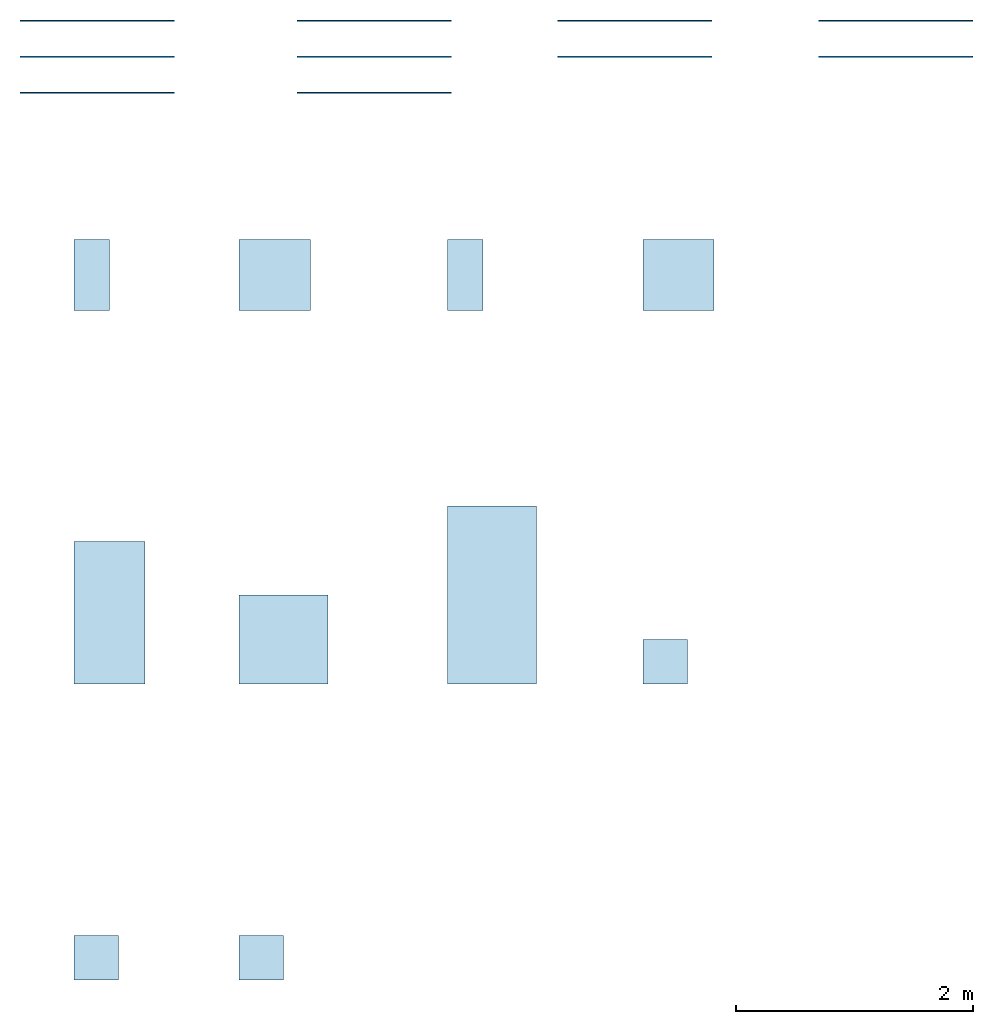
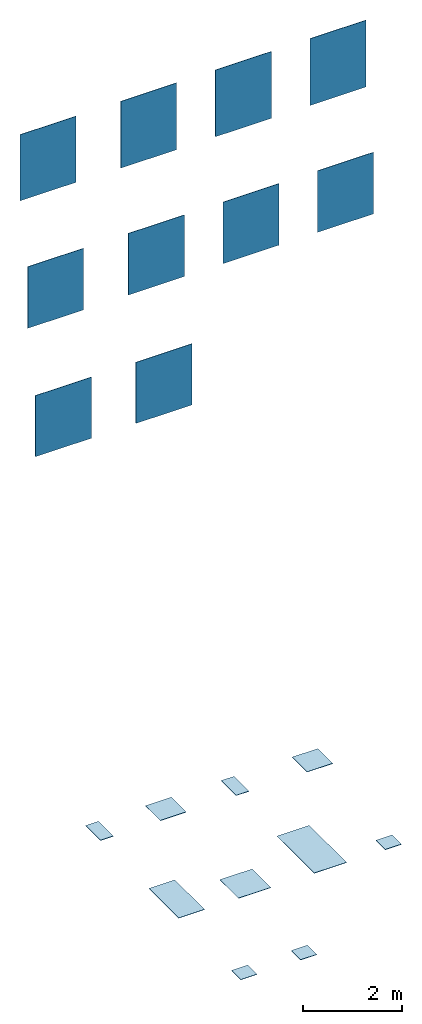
# One storey: 10 slabs, 10 walls.
"""IFC2X3 building model written with IfcOpenShell, lengths in millimetres."""

from ifc_helpers import new_model, entity, si_unit, converted_unit, derived_unit, direction, frame, frame_2d, origin, origin_2d_with_axis, place, context, subcontext, project, spatial, rectangle, extrude, material, layer, layer_set, layer_usage, type_object, element, save


model = new_model("IFC2X3")

# Units and contexts
model_context = context("Model", 3, precision=0.01, world=origin(), true_north=direction((6.12303176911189e-17, 1.0)))
body_context = subcontext(model_context, "Body", "Model", "MODEL_VIEW")
ifc_project = project(units=[si_unit("LENGTHUNIT", "METRE", prefix="MILLI"), si_unit("AREAUNIT", "SQUARE_METRE"), si_unit("VOLUMEUNIT", "CUBIC_METRE"), converted_unit("PLANEANGLEUNIT", "DEGREE", entity("IfcRatioMeasure", 0.0174532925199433), si_unit("PLANEANGLEUNIT", "RADIAN"), dimensions=[0, 0, 0, 0, 0, 0, 0]), si_unit("MASSUNIT", "GRAM", prefix="KILO"), derived_unit("MASSDENSITYUNIT", [(si_unit("MASSUNIT", "GRAM", prefix="KILO"), 1), (si_unit("LENGTHUNIT", "METRE"), -3)]), derived_unit("MOMENTOFINERTIAUNIT", [(si_unit("LENGTHUNIT", "METRE"), 4)]), si_unit("TIMEUNIT", "SECOND"), si_unit("FREQUENCYUNIT", "HERTZ"), si_unit("THERMODYNAMICTEMPERATUREUNIT", "DEGREE_CELSIUS"), derived_unit("THERMALTRANSMITTANCEUNIT", [(si_unit("MASSUNIT", "GRAM", prefix="KILO"), 1), (si_unit("THERMODYNAMICTEMPERATUREUNIT", "KELVIN"), -1), (si_unit("TIMEUNIT", "SECOND"), -3)]), derived_unit("VOLUMETRICFLOWRATEUNIT", [(si_unit("LENGTHUNIT", "METRE"), 3), (si_unit("TIMEUNIT", "SECOND"), -1)]), si_unit("ELECTRICCURRENTUNIT", "AMPERE"), si_unit("ELECTRICVOLTAGEUNIT", "VOLT"), si_unit("POWERUNIT", "WATT"), si_unit("FORCEUNIT", "NEWTON", prefix="KILO"), si_unit("ILLUMINANCEUNIT", "LUX"), si_unit("LUMINOUSFLUXUNIT", "LUMEN"), si_unit("LUMINOUSINTENSITYUNIT", "CANDELA"), derived_unit("USERDEFINED", [(si_unit("MASSUNIT", "GRAM", prefix="KILO"), -1), (si_unit("LENGTHUNIT", "METRE"), -2), (si_unit("TIMEUNIT", "SECOND"), 3), (si_unit("LUMINOUSFLUXUNIT", "LUMEN"), 1)]), derived_unit("LINEARVELOCITYUNIT", [(si_unit("LENGTHUNIT", "METRE"), 1), (si_unit("TIMEUNIT", "SECOND"), -1)]), si_unit("PRESSUREUNIT", "PASCAL"), derived_unit("USERDEFINED", [(si_unit("LENGTHUNIT", "METRE"), -2), (si_unit("MASSUNIT", "GRAM", prefix="KILO"), 1), (si_unit("TIMEUNIT", "SECOND"), -2)]), derived_unit("LINEARFORCEUNIT", [(si_unit("MASSUNIT", "GRAM", prefix="KILO"), 1), (si_unit("LENGTHUNIT", "METRE"), 1), (si_unit("TIMEUNIT", "SECOND"), -2), (si_unit("LENGTHUNIT", "METRE"), -1)]), derived_unit("PLANARFORCEUNIT", [(si_unit("MASSUNIT", "GRAM", prefix="KILO"), 1), (si_unit("LENGTHUNIT", "METRE"), 1), (si_unit("TIMEUNIT", "SECOND"), -2), (si_unit("LENGTHUNIT", "METRE"), -2)])], contexts=[model_context])

# Site, building, storey
site_placement = place(None, origin())
site = spatial("IfcSite", under=ifc_project, at=site_placement, Name="Default", CompositionType="ELEMENT")
building_placement = place(site_placement, origin())
building = spatial("IfcBuilding", under=site, at=building_placement, CompositionType="ELEMENT")
storey_placement = place(building_placement, origin())
storey = spatial("IfcBuildingStorey", under=building, at=storey_placement, Name="Level 0", CompositionType="ELEMENT", Elevation=0.0)

# Slabs
ifc_material_1 = material(Name="Stardust-Deep-30x60 NC72")
ifc_layer_1 = layer(ifc_material_1, 9.0)
ifc_material_2 = material(Name="<Unnamed>")
ifc_layer_2 = layer(ifc_material_2, 1.0)
ifc_layer_set_1 = layer_set([ifc_layer_1, ifc_layer_2], Name="Floor:Floor_Tiles_Refin-Stardust-Deep-30x60 NC72")
ifc_layer_usage_1 = layer_usage(ifc_layer_set_1, "AXIS3", "POSITIVE", 0.0)
slab_type_1 = type_object("IfcSlabType", Name="Floor:Floor_Tiles_Refin-Stardust-Deep-30x60 NC72", PredefinedType="FLOOR", material=ifc_layer_set_1)
slab_1_placement = place(storey_placement, origin())
element("IfcSlab", 1, at=slab_1_placement, inside=storey, type_object=slab_type_1, material=ifc_layer_usage_1, Name="Floor:Floor_Tiles_Refin-Stardust-Deep-30x60 NC72", ObjectType="Floor:Floor_Tiles_Refin-Stardust-Deep-30x60 NC72", PredefinedType="FLOOR", context=body_context, shape_type="SweptSolid", body=[
    extrude(rectangle(XDim=600.0, YDim=300.0, at=frame_2d((0.0, -5.40012479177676e-13), x_axis=(1.0, 0.0))), frame((6524.37520617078, 5989.4623742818, 0.0), z_axis=(0.0, 0.0, -1.0), x_axis=(0.0, 1.0, 0.0)), (0.0, 0.0, 1.0), 10.0),
])
ifc_material_3 = material(Name="Stardust-Deep-60x60 NC06")
ifc_layer_3 = layer(ifc_material_3, 9.0)
ifc_layer_4 = layer(ifc_material_2, 1.0)
ifc_layer_set_2 = layer_set([ifc_layer_3, ifc_layer_4], Name="Floor:Floor_Tiles_Refin-Stardust-Deep-60x60 NC06")
ifc_layer_usage_2 = layer_usage(ifc_layer_set_2, "AXIS3", "POSITIVE", 0.0)
slab_type_2 = type_object("IfcSlabType", Name="Floor:Floor_Tiles_Refin-Stardust-Deep-60x60 NC06", PredefinedType="FLOOR", material=ifc_layer_set_2)
slab_2_placement = place(storey_placement, origin())
element("IfcSlab", 2, at=slab_2_placement, inside=storey, type_object=slab_type_2, material=ifc_layer_usage_2, Name="Floor:Floor_Tiles_Refin-Stardust-Deep-60x60 NC06", ObjectType="Floor:Floor_Tiles_Refin-Stardust-Deep-60x60 NC06", PredefinedType="FLOOR", context=body_context, shape_type="SweptSolid", body=[
    extrude(rectangle(XDim=600.0, YDim=600.0, at=origin_2d_with_axis()), frame((8067.39240545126, 5988.41920639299, 0.0), z_axis=(0.0, 0.0, -1.0), x_axis=(0.0, 1.0, 0.0)), (0.0, 0.0, 1.0), 10.0),
])
ifc_material_4 = material(Name="Stardust-Deep-Soft-30x60 NC73")
ifc_layer_5 = layer(ifc_material_4, 9.0)
ifc_layer_6 = layer(ifc_material_2, 1.0)
ifc_layer_set_3 = layer_set([ifc_layer_5, ifc_layer_6], Name="Floor:Floor_Tiles_Refin-Stardust-Deep-Soft-30x60 NC73")
ifc_layer_usage_3 = layer_usage(ifc_layer_set_3, "AXIS3", "POSITIVE", 0.0)
slab_type_3 = type_object("IfcSlabType", Name="Floor:Floor_Tiles_Refin-Stardust-Deep-Soft-30x60 NC73", PredefinedType="FLOOR", material=ifc_layer_set_3)
slab_3_placement = place(storey_placement, origin())
element("IfcSlab", 3, at=slab_3_placement, inside=storey, type_object=slab_type_3, material=ifc_layer_usage_3, Name="Floor:Floor_Tiles_Refin-Stardust-Deep-Soft-30x60 NC73", ObjectType="Floor:Floor_Tiles_Refin-Stardust-Deep-Soft-30x60 NC73", PredefinedType="FLOOR", context=body_context, shape_type="SweptSolid", body=[
    extrude(rectangle(XDim=600.0, YDim=300.000000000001, at=origin_2d_with_axis()), frame((9677.18614186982, 5989.46237428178, 0.0), z_axis=(0.0, 0.0, -1.0), x_axis=(0.0, 1.0, 0.0)), (0.0, 0.0, 1.0), 10.0),
])
ifc_material_5 = material(Name="Stardust-Deep-Soft-60x60 NC07")
ifc_layer_7 = layer(ifc_material_5, 9.0)
ifc_layer_8 = layer(ifc_material_2, 1.0)
ifc_layer_set_4 = layer_set([ifc_layer_7, ifc_layer_8], Name="Floor:Floor_Tiles_Refin-Stardust-Deep-Soft-60x60 NC07")
ifc_layer_usage_4 = layer_usage(ifc_layer_set_4, "AXIS3", "POSITIVE", 0.0)
slab_type_4 = type_object("IfcSlabType", Name="Floor:Floor_Tiles_Refin-Stardust-Deep-Soft-60x60 NC07", PredefinedType="FLOOR", material=ifc_layer_set_4)
slab_4_placement = place(storey_placement, origin())
element("IfcSlab", 4, at=slab_4_placement, inside=storey, type_object=slab_type_4, material=ifc_layer_usage_4, Name="Floor:Floor_Tiles_Refin-Stardust-Deep-Soft-60x60 NC07", ObjectType="Floor:Floor_Tiles_Refin-Stardust-Deep-Soft-60x60 NC07", PredefinedType="FLOOR", context=body_context, shape_type="SweptSolid", body=[
    extrude(rectangle(XDim=600.0, YDim=600.0, at=frame_2d((0.0, -1.08002495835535e-12), x_axis=(1.0, 0.0))), frame((11477.1861418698, 5989.46237428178, 0.0), z_axis=(0.0, 0.0, -1.0), x_axis=(0.0, 1.0, 0.0)), (0.0, 0.0, 1.0), 10.0),
])
ifc_material_6 = material(Name="Stardust-Deep-Soft-75x75 NA76")
ifc_layer_9 = layer(ifc_material_6, 9.0)
ifc_layer_10 = layer(ifc_material_2, 1.0)
ifc_layer_set_5 = layer_set([ifc_layer_9, ifc_layer_10], Name="Floor:Floor_Tiles_Refin-Stardust-Deep-Soft-75x75 NA76")
ifc_layer_usage_5 = layer_usage(ifc_layer_set_5, "AXIS3", "POSITIVE", 0.0)
slab_type_5 = type_object("IfcSlabType", Name="Floor:Floor_Tiles_Refin-Stardust-Deep-Soft-75x75 NA76", PredefinedType="FLOOR", material=ifc_layer_set_5)
slab_5_placement = place(storey_placement, origin())
element("IfcSlab", 5, at=slab_5_placement, inside=storey, type_object=slab_type_5, material=ifc_layer_usage_5, Name="Floor:Floor_Tiles_Refin-Stardust-Deep-Soft-75x75 NA76", ObjectType="Floor:Floor_Tiles_Refin-Stardust-Deep-Soft-75x75 NA76", PredefinedType="FLOOR", context=body_context, shape_type="SweptSolid", body=[
    extrude(rectangle(XDim=750.0, YDim=750.000000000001, at=frame_2d((-2.55795384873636e-13, 1.08002495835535e-12), x_axis=(1.0, 0.0))), frame((8142.39240545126, 2914.4623742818, 0.0), z_axis=(0.0, 0.0, -1.0), x_axis=(0.0, 1.0, 0.0)), (0.0, 0.0, 1.0), 10.0),
])
ifc_material_7 = material(Name="Stardust-Deep-Soft-75x150 MK03")
ifc_layer_11 = layer(ifc_material_7, 9.0)
ifc_layer_12 = layer(ifc_material_2, 1.0)
ifc_layer_set_6 = layer_set([ifc_layer_11, ifc_layer_12], Name="Floor:Floor_Tiles_Refin-Stardust-Deep-Soft-75x150 MK03")
ifc_layer_usage_6 = layer_usage(ifc_layer_set_6, "AXIS3", "POSITIVE", 0.0)
slab_type_6 = type_object("IfcSlabType", Name="Floor:Floor_Tiles_Refin-Stardust-Deep-Soft-75x150 MK03", PredefinedType="FLOOR", material=ifc_layer_set_6)
slab_6_placement = place(storey_placement, origin())
element("IfcSlab", 6, at=slab_6_placement, inside=storey, type_object=slab_type_6, material=ifc_layer_usage_6, Name="Floor:Floor_Tiles_Refin-Stardust-Deep-Soft-75x150 MK03", ObjectType="Floor:Floor_Tiles_Refin-Stardust-Deep-Soft-75x150 MK03", PredefinedType="FLOOR", context=body_context, shape_type="SweptSolid", body=[
    extrude(rectangle(XDim=1500.0, YDim=750.000000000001, at=frame_2d((0.0, -1.08002495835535e-12), x_axis=(1.0, 0.0))), frame((9902.18614186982, 3289.46237428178, 0.0), z_axis=(0.0, 0.0, -1.0), x_axis=(0.0, 1.0, 0.0)), (0.0, 0.0, 1.0), 10.0),
])
ifc_material_8 = material(Name="Stardust-Deep-Mosaico-Argento-Soft-37.5x37.5 NA45")
ifc_layer_13 = layer(ifc_material_8, 9.0)
ifc_layer_14 = layer(ifc_material_2, 1.0)
ifc_layer_set_7 = layer_set([ifc_layer_13, ifc_layer_14], Name="Floor:Floor_Tiles_Refin-Stardust-Deep-Mosaico-Argento-Soft-37.5x37.5 NA45")
ifc_layer_usage_7 = layer_usage(ifc_layer_set_7, "AXIS3", "POSITIVE", 0.0)
slab_type_7 = type_object("IfcSlabType", Name="Floor:Floor_Tiles_Refin-Stardust-Deep-Mosaico-Argento-Soft-37.5x37.5 NA45", PredefinedType="FLOOR", material=ifc_layer_set_7)
slab_7_placement = place(storey_placement, origin())
element("IfcSlab", 7, at=slab_7_placement, inside=storey, type_object=slab_type_7, material=ifc_layer_usage_7, Name="Floor:Floor_Tiles_Refin-Stardust-Deep-Mosaico-Argento-Soft-37.5x37.5 NA45", ObjectType="Floor:Floor_Tiles_Refin-Stardust-Deep-Mosaico-Argento-Soft-37.5x37.5 NA45", PredefinedType="FLOOR", context=body_context, shape_type="SweptSolid", body=[
    extrude(rectangle(XDim=375.0, YDim=374.999999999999, at=frame_2d((-2.70006239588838e-13, 1.08002495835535e-12), x_axis=(1.0, 0.0))), frame((11364.6861418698, 2726.96237428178, 0.0), z_axis=(0.0, 0.0, -1.0), x_axis=(0.0, 1.0, 0.0)), (0.0, 0.0, 1.0), 10.0),
])
ifc_material_9 = material(Name="Stardust-Deep-Soft-60x120 ND48")
ifc_layer_15 = layer(ifc_material_9, 9.0)
ifc_layer_16 = layer(ifc_material_2, 1.0)
ifc_layer_set_8 = layer_set([ifc_layer_15, ifc_layer_16], Name="Floor:Floor_Tiles_Refin-Stardust-Deep-Soft-60x120 ND48")
ifc_layer_usage_8 = layer_usage(ifc_layer_set_8, "AXIS3", "POSITIVE", 0.0)
slab_type_8 = type_object("IfcSlabType", Name="Floor:Floor_Tiles_Refin-Stardust-Deep-Soft-60x120 ND48", PredefinedType="FLOOR", material=ifc_layer_set_8)
slab_8_placement = place(storey_placement, origin())
element("IfcSlab", 8, at=slab_8_placement, inside=storey, type_object=slab_type_8, material=ifc_layer_usage_8, Name="Floor:Floor_Tiles_Refin-Stardust-Deep-Soft-60x120 ND48", ObjectType="Floor:Floor_Tiles_Refin-Stardust-Deep-Soft-60x120 ND48", PredefinedType="FLOOR", context=body_context, shape_type="SweptSolid", body=[
    extrude(rectangle(XDim=1200.0, YDim=600.0, at=frame_2d((0.0, 1.08002495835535e-12), x_axis=(1.0, 0.0))), frame((6674.37520617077, 3139.46237428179, 0.0), z_axis=(0.0, 0.0, -1.0), x_axis=(0.0, 1.0, 0.0)), (0.0, 0.0, 1.0), 10.0),
])
ifc_material_10 = material(Name="Stardust-Deep-Mosaico-Bronzo-Soft-37.5x37.5 NA45")
ifc_layer_17 = layer(ifc_material_10, 9.0)
ifc_layer_18 = layer(ifc_material_2, 1.0)
ifc_layer_set_9 = layer_set([ifc_layer_17, ifc_layer_18], Name="Floor:Floor_Tiles_Refin-Stardust-Deep-Mosaico-Bronzo-Soft-37.5x37.5 NA45")
ifc_layer_usage_9 = layer_usage(ifc_layer_set_9, "AXIS3", "POSITIVE", 0.0)
slab_type_9 = type_object("IfcSlabType", Name="Floor:Floor_Tiles_Refin-Stardust-Deep-Mosaico-Bronzo-Soft-37.5x37.5 NA45", PredefinedType="FLOOR", material=ifc_layer_set_9)
slab_9_placement = place(storey_placement, origin())
element("IfcSlab", 9, at=slab_9_placement, inside=storey, type_object=slab_type_9, material=ifc_layer_usage_9, Name="Floor:Floor_Tiles_Refin-Stardust-Deep-Mosaico-Bronzo-Soft-37.5x37.5 NA45", ObjectType="Floor:Floor_Tiles_Refin-Stardust-Deep-Mosaico-Bronzo-Soft-37.5x37.5 NA45", PredefinedType="FLOOR", context=body_context, shape_type="SweptSolid", body=[
    extrude(rectangle(XDim=375.0, YDim=374.999999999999, at=origin_2d_with_axis()), frame((6561.87520617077, 226.962374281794, 0.0), z_axis=(0.0, 0.0, -1.0), x_axis=(0.0, 1.0, 0.0)), (0.0, 0.0, 1.0), 10.0),
])
ifc_material_11 = material(Name="Stardust-Deep-Mosaico-Oro-Soft-37.5x37.5 NA45")
ifc_layer_19 = layer(ifc_material_11, 9.0)
ifc_layer_20 = layer(ifc_material_2, 1.0)
ifc_layer_set_10 = layer_set([ifc_layer_19, ifc_layer_20], Name="Floor:Floor_Tiles_Refin-Stardust-Deep-Mosaico-Oro-Soft-37.5x37.5 NA45")
ifc_layer_usage_10 = layer_usage(ifc_layer_set_10, "AXIS3", "POSITIVE", 0.0)
slab_type_10 = type_object("IfcSlabType", Name="Floor:Floor_Tiles_Refin-Stardust-Deep-Mosaico-Oro-Soft-37.5x37.5 NA45", PredefinedType="FLOOR", material=ifc_layer_set_10)
slab_10_placement = place(storey_placement, origin())
element("IfcSlab", 10, at=slab_10_placement, inside=storey, type_object=slab_type_10, material=ifc_layer_usage_10, Name="Floor:Floor_Tiles_Refin-Stardust-Deep-Mosaico-Oro-Soft-37.5x37.5 NA45", ObjectType="Floor:Floor_Tiles_Refin-Stardust-Deep-Mosaico-Oro-Soft-37.5x37.5 NA45", PredefinedType="FLOOR", context=body_context, shape_type="SweptSolid", body=[
    extrude(rectangle(XDim=375.0, YDim=374.999999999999, at=origin_2d_with_axis()), frame((7954.89240545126, 226.962374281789, 0.0), z_axis=(0.0, 0.0, -1.0), x_axis=(0.0, 1.0, 0.0)), (0.0, 0.0, 1.0), 10.0),
])

# Walls
ifc_layer_21 = layer(ifc_material_2, 1.0)
ifc_layer_22 = layer(ifc_material_3, 9.0)
ifc_layer_set_11 = layer_set([ifc_layer_21, ifc_layer_22], Name="Basic Wall:Wall_Tiles_Refin-Stardust-Deep-60x60 NC06")
ifc_layer_usage_11 = layer_usage(ifc_layer_set_11, "AXIS2", "NEGATIVE", 5.0)
wall_type_1 = type_object("IfcWallType", Name="Basic Wall:Wall_Tiles_Refin-Stardust-Deep-60x60 NC06", PredefinedType="STANDARD", material=ifc_layer_set_11)
wall_1_placement = place(storey_placement, frame((8257.37520617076, 8137.38386313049, 14387.6770443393)))
element("IfcWallStandardCase", 11, at=wall_1_placement, inside=storey, type_object=wall_type_1, material=ifc_layer_usage_11, Name="Basic Wall:Wall_Tiles_Refin-Stardust-Deep-60x60 NC06", ObjectType="Basic Wall:Wall_Tiles_Refin-Stardust-Deep-60x60 NC06", context=body_context, shape_type="SweptSolid", body=[
    extrude(rectangle(XDim=1300.0, YDim=9.99999999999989, at=frame_2d((650.0, 7.63833440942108e-14), x_axis=(-1.0, 0.0))), origin(), (0.0, 0.0, 1.0), 1641.74173522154),
])
ifc_layer_23 = layer(ifc_material_2, 1.0)
ifc_layer_24 = layer(ifc_material_4, 9.0)
ifc_layer_set_12 = layer_set([ifc_layer_23, ifc_layer_24], Name="Basic Wall:Wall_Tiles_Refin-Stardust-Deep-Soft-30x60 NC73")
ifc_layer_usage_12 = layer_usage(ifc_layer_set_12, "AXIS2", "NEGATIVE", 5.0)
wall_type_2 = type_object("IfcWallType", Name="Basic Wall:Wall_Tiles_Refin-Stardust-Deep-Soft-30x60 NC73", PredefinedType="STANDARD", material=ifc_layer_set_12)
wall_2_placement = place(storey_placement, frame((10457.3752061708, 8137.38386313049, 14387.6770443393)))
element("IfcWallStandardCase", 12, at=wall_2_placement, inside=storey, type_object=wall_type_2, material=ifc_layer_usage_12, Name="Basic Wall:Wall_Tiles_Refin-Stardust-Deep-Soft-30x60 NC73", ObjectType="Basic Wall:Wall_Tiles_Refin-Stardust-Deep-Soft-30x60 NC73", context=body_context, shape_type="SweptSolid", body=[
    extrude(rectangle(XDim=1300.0, YDim=9.99999999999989, at=frame_2d((650.0, 7.63833440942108e-14), x_axis=(-1.0, 0.0))), origin(), (0.0, 0.0, 1.0), 1641.74173522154),
])
ifc_layer_25 = layer(ifc_material_2, 1.0)
ifc_layer_26 = layer(ifc_material_1, 9.0)
ifc_layer_set_13 = layer_set([ifc_layer_25, ifc_layer_26], Name="Basic Wall:Wall_Tiles_Refin-Stardust-Deep-30x60 NC72")
ifc_layer_usage_13 = layer_usage(ifc_layer_set_13, "AXIS2", "NEGATIVE", 5.0)
wall_type_3 = type_object("IfcWallType", Name="Basic Wall:Wall_Tiles_Refin-Stardust-Deep-30x60 NC72", PredefinedType="STANDARD", material=ifc_layer_set_13)
wall_3_placement = place(storey_placement, frame((5917.37520617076, 8137.38386313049, 14403.726734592)))
element("IfcWallStandardCase", 13, at=wall_3_placement, inside=storey, type_object=wall_type_3, material=ifc_layer_usage_13, Name="Basic Wall:Wall_Tiles_Refin-Stardust-Deep-30x60 NC72", ObjectType="Basic Wall:Wall_Tiles_Refin-Stardust-Deep-30x60 NC72", context=body_context, shape_type="SweptSolid", body=[
    extrude(rectangle(XDim=1300.0, YDim=9.99999999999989, at=frame_2d((650.0, 7.63833440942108e-14), x_axis=(-1.0, 0.0))), origin(), (0.0, 0.0, 1.0), 1625.69204496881),
])
ifc_layer_27 = layer(ifc_material_2, 1.0)
ifc_layer_28 = layer(ifc_material_9, 9.0)
ifc_layer_set_14 = layer_set([ifc_layer_27, ifc_layer_28], Name="Basic Wall:Wall_Tiles_Refin-Stardust-Deep-Soft-60x120 ND48")
ifc_layer_usage_14 = layer_usage(ifc_layer_set_14, "AXIS2", "NEGATIVE", 5.0)
wall_type_4 = type_object("IfcWallType", Name="Basic Wall:Wall_Tiles_Refin-Stardust-Deep-Soft-60x120 ND48", PredefinedType="STANDARD", material=ifc_layer_set_14)
wall_4_placement = place(storey_placement, frame((5917.37520617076, 7832.38386313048, 11452.5436262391)))
element("IfcWallStandardCase", 14, at=wall_4_placement, inside=storey, type_object=wall_type_4, material=ifc_layer_usage_14, Name="Basic Wall:Wall_Tiles_Refin-Stardust-Deep-Soft-60x120 ND48", ObjectType="Basic Wall:Wall_Tiles_Refin-Stardust-Deep-Soft-60x120 ND48", context=body_context, shape_type="SweptSolid", body=[
    extrude(rectangle(XDim=1300.0, YDim=9.99999999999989, at=frame_2d((650.0, 0.0), x_axis=(-1.0, 0.0))), origin(), (0.0, 0.0, 1.0), 1513.19855655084),
])
ifc_layer_29 = layer(ifc_material_2, 1.0)
ifc_layer_30 = layer(ifc_material_6, 9.0)
ifc_layer_set_15 = layer_set([ifc_layer_29, ifc_layer_30], Name="Basic Wall:Wall_Tiles_Refin-Stardust-Deep-Soft-75x75 NA76")
ifc_layer_usage_15 = layer_usage(ifc_layer_set_15, "AXIS2", "NEGATIVE", 5.0)
wall_type_5 = type_object("IfcWallType", Name="Basic Wall:Wall_Tiles_Refin-Stardust-Deep-Soft-75x75 NA76", PredefinedType="STANDARD", material=ifc_layer_set_15)
wall_5_placement = place(storey_placement, frame((8257.37520617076, 7832.38386313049, 11452.5436262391)))
element("IfcWallStandardCase", 15, at=wall_5_placement, inside=storey, type_object=wall_type_5, material=ifc_layer_usage_15, Name="Basic Wall:Wall_Tiles_Refin-Stardust-Deep-Soft-75x75 NA76", ObjectType="Basic Wall:Wall_Tiles_Refin-Stardust-Deep-Soft-75x75 NA76", context=body_context, shape_type="SweptSolid", body=[
    extrude(rectangle(XDim=1300.0, YDim=9.99999999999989, at=frame_2d((650.0, 0.0), x_axis=(-1.0, 0.0))), origin(), (0.0, 0.0, 1.0), 1513.19855655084),
])
ifc_layer_31 = layer(ifc_material_2, 1.0)
ifc_layer_32 = layer(ifc_material_7, 9.0)
ifc_layer_set_16 = layer_set([ifc_layer_31, ifc_layer_32], Name="Basic Wall:Wall_Tiles_Refin-Stardust-Deep-Soft-75x150 MK03")
ifc_layer_usage_16 = layer_usage(ifc_layer_set_16, "AXIS2", "NEGATIVE", 5.0)
wall_type_6 = type_object("IfcWallType", Name="Basic Wall:Wall_Tiles_Refin-Stardust-Deep-Soft-75x150 MK03", PredefinedType="STANDARD", material=ifc_layer_set_16)
wall_6_placement = place(storey_placement, frame((10457.3752061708, 7832.38386313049, 11452.5436262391)))
element("IfcWallStandardCase", 16, at=wall_6_placement, inside=storey, type_object=wall_type_6, material=ifc_layer_usage_16, Name="Basic Wall:Wall_Tiles_Refin-Stardust-Deep-Soft-75x150 MK03", ObjectType="Basic Wall:Wall_Tiles_Refin-Stardust-Deep-Soft-75x150 MK03", context=body_context, shape_type="SweptSolid", body=[
    extrude(rectangle(XDim=1300.0, YDim=9.99999999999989, at=frame_2d((650.000000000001, 0.0), x_axis=(-1.0, 0.0))), origin(), (0.0, 0.0, 1.0), 1513.19855655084),
])
ifc_layer_33 = layer(ifc_material_2, 1.0)
ifc_layer_34 = layer(ifc_material_10, 9.0)
ifc_layer_set_17 = layer_set([ifc_layer_33, ifc_layer_34], Name="Basic Wall:Wall_Tiles_Refin-Stardust-Deep-Mosaico-Bronzo-Soft-37.5x37.5 NA45")
ifc_layer_usage_17 = layer_usage(ifc_layer_set_17, "AXIS2", "NEGATIVE", 5.0)
wall_type_7 = type_object("IfcWallType", Name="Basic Wall:Wall_Tiles_Refin-Stardust-Deep-Mosaico-Bronzo-Soft-37.5x37.5 NA45", PredefinedType="STANDARD", material=ifc_layer_set_17)
wall_7_placement = place(storey_placement, frame((5917.37520617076, 7527.38386313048, 8479.10272143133)))
element("IfcWallStandardCase", 17, at=wall_7_placement, inside=storey, type_object=wall_type_7, material=ifc_layer_usage_17, Name="Basic Wall:Wall_Tiles_Refin-Stardust-Deep-Mosaico-Bronzo-Soft-37.5x37.5 NA45", ObjectType="Basic Wall:Wall_Tiles_Refin-Stardust-Deep-Mosaico-Bronzo-Soft-37.5x37.5 NA45", context=body_context, shape_type="SweptSolid", body=[
    extrude(rectangle(XDim=1300.0, YDim=9.99999999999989, at=frame_2d((650.0, 0.0), x_axis=(-1.0, 0.0))), origin(), (0.0, 0.0, 1.0), 1502.57401590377),
])
ifc_layer_35 = layer(ifc_material_2, 1.0)
ifc_layer_36 = layer(ifc_material_11, 9.0)
ifc_layer_set_18 = layer_set([ifc_layer_35, ifc_layer_36], Name="Basic Wall:Wall_Tiles_Refin-Stardust-Deep-Mosaico-Oro-Soft-37.5x37.5 NA45")
ifc_layer_usage_18 = layer_usage(ifc_layer_set_18, "AXIS2", "NEGATIVE", 5.0)
wall_type_8 = type_object("IfcWallType", Name="Basic Wall:Wall_Tiles_Refin-Stardust-Deep-Mosaico-Oro-Soft-37.5x37.5 NA45", PredefinedType="STANDARD", material=ifc_layer_set_18)
wall_8_placement = place(storey_placement, frame((8257.37520617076, 7527.38386313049, 8479.10272143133)))
element("IfcWallStandardCase", 18, at=wall_8_placement, inside=storey, type_object=wall_type_8, material=ifc_layer_usage_18, Name="Basic Wall:Wall_Tiles_Refin-Stardust-Deep-Mosaico-Oro-Soft-37.5x37.5 NA45", ObjectType="Basic Wall:Wall_Tiles_Refin-Stardust-Deep-Mosaico-Oro-Soft-37.5x37.5 NA45", context=body_context, shape_type="SweptSolid", body=[
    extrude(rectangle(XDim=1300.0, YDim=9.99999999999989, at=frame_2d((650.0, 0.0), x_axis=(-1.0, 0.0))), origin(), (0.0, 0.0, 1.0), 1502.57401590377),
])
ifc_layer_37 = layer(ifc_material_2, 1.0)
ifc_layer_38 = layer(ifc_material_5, 9.0)
ifc_layer_set_19 = layer_set([ifc_layer_37, ifc_layer_38], Name="Basic Wall:Wall_Tiles_Refin-Stardust-Deep-Soft-60x60 NC07")
ifc_layer_usage_19 = layer_usage(ifc_layer_set_19, "AXIS2", "NEGATIVE", 5.0)
wall_type_9 = type_object("IfcWallType", Name="Basic Wall:Wall_Tiles_Refin-Stardust-Deep-Soft-60x60 NC07", PredefinedType="STANDARD", material=ifc_layer_set_19)
wall_9_placement = place(storey_placement, frame((12657.3752061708, 8137.3838631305, 14387.6770443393)))
element("IfcWallStandardCase", 19, at=wall_9_placement, inside=storey, type_object=wall_type_9, material=ifc_layer_usage_19, Name="Basic Wall:Wall_Tiles_Refin-Stardust-Deep-Soft-60x60 NC07", ObjectType="Basic Wall:Wall_Tiles_Refin-Stardust-Deep-Soft-60x60 NC07", context=body_context, shape_type="SweptSolid", body=[
    extrude(rectangle(XDim=1300.0, YDim=9.99999999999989, at=frame_2d((650.0, 7.63833440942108e-14), x_axis=(-1.0, 0.0))), origin(), (0.0, 0.0, 1.0), 1641.74173522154),
])
ifc_layer_39 = layer(ifc_material_2, 1.0)
ifc_layer_40 = layer(ifc_material_8, 9.0)
ifc_layer_set_20 = layer_set([ifc_layer_39, ifc_layer_40], Name="Basic Wall:Wall_Tiles_Refin-Stardust-Deep-Mosaico-Argento-Soft-37.5x37.5 NA45")
ifc_layer_usage_20 = layer_usage(ifc_layer_set_20, "AXIS2", "NEGATIVE", 5.0)
wall_type_10 = type_object("IfcWallType", Name="Basic Wall:Wall_Tiles_Refin-Stardust-Deep-Mosaico-Argento-Soft-37.5x37.5 NA45", PredefinedType="STANDARD", material=ifc_layer_set_20)
wall_10_placement = place(storey_placement, frame((12657.3752061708, 7832.3838631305, 11452.5436262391)))
element("IfcWallStandardCase", 20, at=wall_10_placement, inside=storey, type_object=wall_type_10, material=ifc_layer_usage_20, Name="Basic Wall:Wall_Tiles_Refin-Stardust-Deep-Mosaico-Argento-Soft-37.5x37.5 NA45", ObjectType="Basic Wall:Wall_Tiles_Refin-Stardust-Deep-Mosaico-Argento-Soft-37.5x37.5 NA45", context=body_context, shape_type="SweptSolid", body=[
    extrude(rectangle(XDim=1300.0, YDim=9.99999999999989, at=frame_2d((650.0, 0.0), x_axis=(-1.0, 0.0))), origin(), (0.0, 0.0, 1.0), 1513.19855655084),
])

save(model, "model.ifc")
